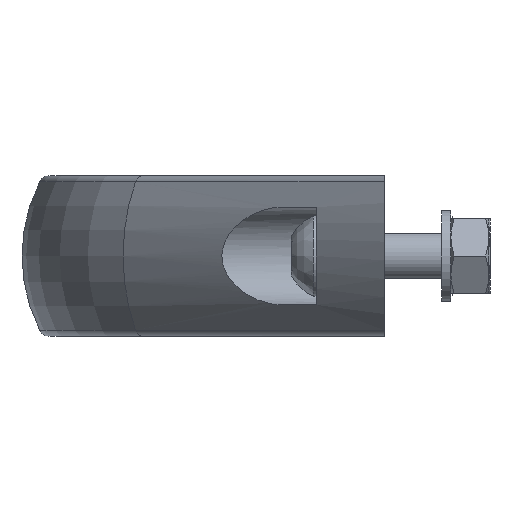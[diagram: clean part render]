
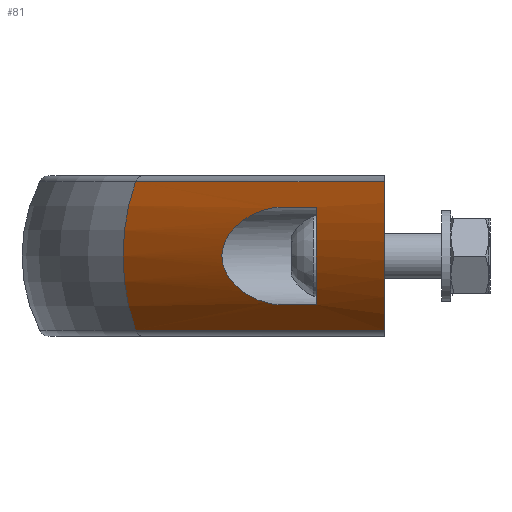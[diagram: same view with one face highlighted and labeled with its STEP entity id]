
A CAD part, left-side view. The second image highlights one B-rep face of the part: STEP entity #81.
In plain terms, the highlighted cylindrical face has radius 28.5 mm (diameter 57 mm), a partial arc.
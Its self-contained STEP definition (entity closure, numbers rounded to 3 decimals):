
#81 = ADVANCED_FACE( '', ( #217, #218 ), #219, .T. );
#217 = FACE_OUTER_BOUND( '', #510, .T. );
#218 = FACE_BOUND( '', #511, .T. );
#219 = CYLINDRICAL_SURFACE( '', #512, 28.5 );
#510 = EDGE_LOOP( '', ( #925, #926, #927, #928 ) );
#511 = EDGE_LOOP( '', ( #929, #930, #931, #932 ) );
#512 = AXIS2_PLACEMENT_3D( '', #933, #934, #935 );
#925 = ORIENTED_EDGE( '', *, *, #1792, .F. );
#926 = ORIENTED_EDGE( '', *, *, #1793, .T. );
#927 = ORIENTED_EDGE( '', *, *, #1794, .F. );
#928 = ORIENTED_EDGE( '', *, *, #1789, .F. );
#929 = ORIENTED_EDGE( '', *, *, #1795, .F. );
#930 = ORIENTED_EDGE( '', *, *, #1796, .F. );
#931 = ORIENTED_EDGE( '', *, *, #1797, .F. );
#932 = ORIENTED_EDGE( '', *, *, #1798, .F. );
#933 = CARTESIAN_POINT( '', ( -174.86, -45.437, 0. ) );
#934 = DIRECTION( '', ( -0.707, -0.707, 0. ) );
#935 = DIRECTION( '', ( -0.707, 0.707, 0. ) );
#1789 = EDGE_CURVE( '', #2083, #2086, #2087, .T. );
#1792 = EDGE_CURVE( '', #2091, #2083, #2092, .T. );
#1793 = EDGE_CURVE( '', #2091, #2093, #2094, .T. );
#1794 = EDGE_CURVE( '', #2086, #2093, #2095, .T. );
#1795 = EDGE_CURVE( '', #2096, #2097, #2098, .F. );
#1796 = EDGE_CURVE( '', #2099, #2096, #2100, .T. );
#1797 = EDGE_CURVE( '', #2101, #2099, #2102, .T. );
#1798 = EDGE_CURVE( '', #2097, #2101, #2103, .T. );
#2083 = VERTEX_POINT( '', #2632 );
#2086 = VERTEX_POINT( '', #2635 );
#2087 = LINE( '', #2636, #2637 );
#2091 = VERTEX_POINT( '', #2642 );
#2092 = ELLIPSE( '', #2643, 40.305, 28.5 );
#2093 = VERTEX_POINT( '', #2644 );
#2094 = LINE( '', #2645, #2646 );
#2095 = CIRCLE( '', #2647, 28.5 );
#2096 = VERTEX_POINT( '', #2648 );
#2097 = VERTEX_POINT( '', #2649 );
#2098 = LINE( '', #2650, #2651 );
#2099 = VERTEX_POINT( '', #2652 );
#2100 = B_SPLINE_CURVE_WITH_KNOTS( '', 3, ( #2653, #2654, #2655, #2656, #2657, #2658, #2659, #2660, #2661, #2662, #2663, #2664, #2665, #2666, #2667, #2668, #2669, #2670, #2671, #2672, #2673, #2674, #2675, #2676, #2677, #2678, #2679, #2680, #2681, #2682, #2683, #2684, #2685, #2686, #2687, #2688, #2689, #2690, #2691, #2692, #2693, #2694, #2695, #2696, #2697, #2698, #2699, #2700, #2701, #2702, #2703, #2704, #2705, #2706 ), .UNSPECIFIED., .F., .F., ( 4, 2, 2, 2, 2, 2, 2, 2, 2, 2, 2, 2, 2, 2, 2, 2, 2, 2, 2, 2, 2, 2, 2, 2, 2, 2, 4 ), ( 0.011, 0.013, 0.015, 0.017, 0.018, 0.02, 0.021, 0.022, 0.024, 0.025, 0.026, 0.027, 0.028, 0.028, 0.029, 0.031, 0.032, 0.033, 0.034, 0.035, 0.037, 0.038, 0.039, 0.041, 0.044, 0.045, 0.046 ), .UNSPECIFIED. );
#2101 = VERTEX_POINT( '', #2707 );
#2102 = LINE( '', #2708, #2709 );
#2103 = ELLIPSE( '', #2710, 40.305, 28.5 );
#2632 = CARTESIAN_POINT( '', ( -165.359, 0., -12.906 ) );
#2635 = CARTESIAN_POINT( '', ( -122.117, 43.242, -12.906 ) );
#2636 = CARTESIAN_POINT( '', ( -192.827, -27.469, -12.906 ) );
#2637 = VECTOR( '', #3357, 1000. );
#2642 = CARTESIAN_POINT( '', ( -165.359, 0., 12.906 ) );
#2643 = AXIS2_PLACEMENT_3D( '', #3362, #3363, #3364 );
#2644 = CARTESIAN_POINT( '', ( -122.117, 43.242, 12.906 ) );
#2645 = CARTESIAN_POINT( '', ( -192.827, -27.469, 12.906 ) );
#2646 = VECTOR( '', #3365, 1000. );
#2647 = AXIS2_PLACEMENT_3D( '', #3366, #3367, #3368 );
#2648 = CARTESIAN_POINT( '', ( -150., 17.893, -8.5 ) );
#2649 = CARTESIAN_POINT( '', ( -156.093, 11.8, -8.5 ) );
#2650 = CARTESIAN_POINT( '', ( -194.095, -26.201, -8.5 ) );
#2651 = VECTOR( '', #3369, 1000. );
#2652 = CARTESIAN_POINT( '', ( -150., 17.893, 8.5 ) );
#2653 = CARTESIAN_POINT( '', ( -150., 17.893, 8.5 ) );
#2654 = CARTESIAN_POINT( '', ( -149.492, 18.402, 8.5 ) );
#2655 = CARTESIAN_POINT( '', ( -148.997, 18.917, 8.455 ) );
#2656 = CARTESIAN_POINT( '', ( -148.03, 19.958, 8.283 ) );
#2657 = CARTESIAN_POINT( '', ( -147.559, 20.484, 8.157 ) );
#2658 = CARTESIAN_POINT( '', ( -146.866, 21.28, 7.905 ) );
#2659 = CARTESIAN_POINT( '', ( -146.639, 21.546, 7.811 ) );
#2660 = CARTESIAN_POINT( '', ( -146.194, 22.073, 7.604 ) );
#2661 = CARTESIAN_POINT( '', ( -145.977, 22.334, 7.491 ) );
#2662 = CARTESIAN_POINT( '', ( -145.336, 23.114, 7.123 ) );
#2663 = CARTESIAN_POINT( '', ( -144.927, 23.626, 6.84 ) );
#2664 = CARTESIAN_POINT( '', ( -144.34, 24.377, 6.346 ) );
#2665 = CARTESIAN_POINT( '', ( -144.148, 24.624, 6.171 ) );
#2666 = CARTESIAN_POINT( '', ( -143.775, 25.113, 5.794 ) );
#2667 = CARTESIAN_POINT( '', ( -143.592, 25.354, 5.591 ) );
#2668 = CARTESIAN_POINT( '', ( -143.066, 26.055, 4.947 ) );
#2669 = CARTESIAN_POINT( '', ( -142.744, 26.492, 4.47 ) );
#2670 = CARTESIAN_POINT( '', ( -142.319, 27.078, 3.653 ) );
#2671 = CARTESIAN_POINT( '', ( -142.189, 27.259, 3.367 ) );
#2672 = CARTESIAN_POINT( '', ( -141.956, 27.584, 2.766 ) );
#2673 = CARTESIAN_POINT( '', ( -141.854, 27.727, 2.451 ) );
#2674 = CARTESIAN_POINT( '', ( -141.683, 27.969, 1.786 ) );
#2675 = CARTESIAN_POINT( '', ( -141.615, 28.064, 1.44 ) );
#2676 = CARTESIAN_POINT( '', ( -141.547, 28.161, 0.911 ) );
#2677 = CARTESIAN_POINT( '', ( -141.53, 28.186, 0.733 ) );
#2678 = CARTESIAN_POINT( '', ( -141.506, 28.219, 0.372 ) );
#2679 = CARTESIAN_POINT( '', ( -141.5, 28.228, 0.188 ) );
#2680 = CARTESIAN_POINT( '', ( -141.5, 28.228, -0.357 ) );
#2681 = CARTESIAN_POINT( '', ( -141.523, 28.196, -0.715 ) );
#2682 = CARTESIAN_POINT( '', ( -141.612, 28.068, -1.423 ) );
#2683 = CARTESIAN_POINT( '', ( -141.68, 27.973, -1.772 ) );
#2684 = CARTESIAN_POINT( '', ( -141.849, 27.734, -2.435 ) );
#2685 = CARTESIAN_POINT( '', ( -141.952, 27.59, -2.754 ) );
#2686 = CARTESIAN_POINT( '', ( -142.186, 27.263, -3.361 ) );
#2687 = CARTESIAN_POINT( '', ( -142.316, 27.083, -3.646 ) );
#2688 = CARTESIAN_POINT( '', ( -142.596, 26.697, -4.186 ) );
#2689 = CARTESIAN_POINT( '', ( -142.746, 26.491, -4.441 ) );
#2690 = CARTESIAN_POINT( '', ( -143.066, 26.057, -4.924 ) );
#2691 = CARTESIAN_POINT( '', ( -143.235, 25.829, -5.154 ) );
#2692 = CARTESIAN_POINT( '', ( -143.759, 25.131, -5.797 ) );
#2693 = CARTESIAN_POINT( '', ( -144.131, 24.644, -6.17 ) );
#2694 = CARTESIAN_POINT( '', ( -144.72, 23.891, -6.666 ) );
#2695 = CARTESIAN_POINT( '', ( -144.921, 23.636, -6.82 ) );
#2696 = CARTESIAN_POINT( '', ( -145.334, 23.12, -7.109 ) );
#2697 = CARTESIAN_POINT( '', ( -145.547, 22.858, -7.244 ) );
#2698 = CARTESIAN_POINT( '', ( -146.193, 22.071, -7.616 ) );
#2699 = CARTESIAN_POINT( '', ( -146.636, 21.546, -7.821 ) );
#2700 = CARTESIAN_POINT( '', ( -147.548, 20.496, -8.153 ) );
#2701 = CARTESIAN_POINT( '', ( -148.018, 19.972, -8.28 ) );
#2702 = CARTESIAN_POINT( '', ( -148.744, 19.188, -8.41 ) );
#2703 = CARTESIAN_POINT( '', ( -148.991, 18.928, -8.444 ) );
#2704 = CARTESIAN_POINT( '', ( -149.491, 18.408, -8.488 ) );
#2705 = CARTESIAN_POINT( '', ( -149.745, 18.148, -8.5 ) );
#2706 = CARTESIAN_POINT( '', ( -150., 17.893, -8.5 ) );
#2707 = CARTESIAN_POINT( '', ( -156.093, 11.8, 8.5 ) );
#2708 = CARTESIAN_POINT( '', ( -194.095, -26.201, 8.5 ) );
#2709 = VECTOR( '', #3370, 1000. );
#2710 = AXIS2_PLACEMENT_3D( '', #3371, #3372, #3373 );
#3357 = DIRECTION( '', ( 0.707, 0.707, 0. ) );
#3362 = CARTESIAN_POINT( '', ( -129.423, 0., 0. ) );
#3363 = DIRECTION( '', ( 0., -1., 0. ) );
#3364 = DIRECTION( '', ( 1., 0., 0. ) );
#3365 = DIRECTION( '', ( 0.707, 0.707, 0. ) );
#3366 = CARTESIAN_POINT( '', ( -104.149, 25.274, 0. ) );
#3367 = DIRECTION( '', ( 0.707, 0.707, 0. ) );
#3368 = DIRECTION( '', ( 0., 0., -1. ) );
#3369 = DIRECTION( '', ( 0.707, 0.707, 0. ) );
#3370 = DIRECTION( '', ( 0.707, 0.707, 0. ) );
#3371 = CARTESIAN_POINT( '', ( -117.623, 11.8, 0. ) );
#3372 = DIRECTION( '', ( 0., 1., 0. ) );
#3373 = DIRECTION( '', ( 1., 0., 0. ) );
